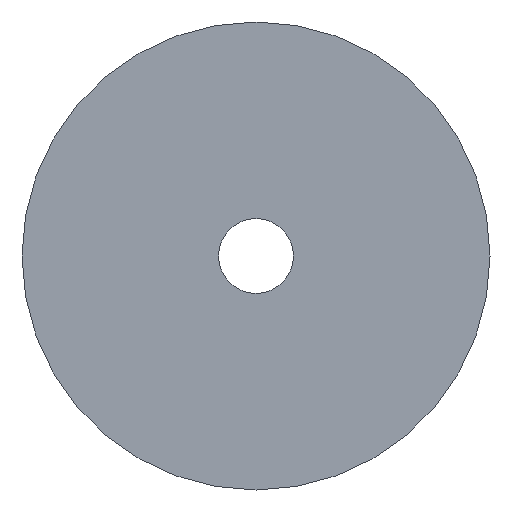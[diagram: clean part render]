
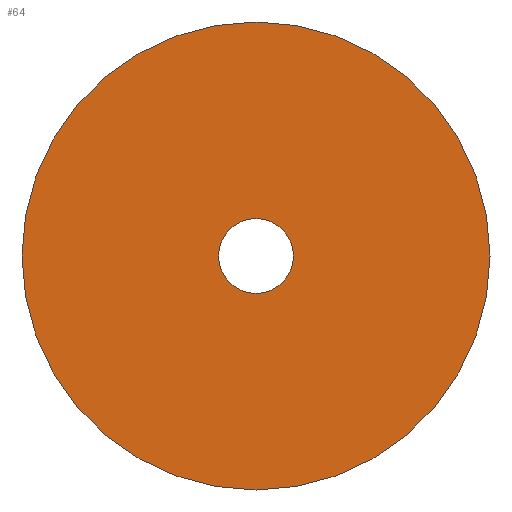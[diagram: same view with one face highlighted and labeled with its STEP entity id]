
A CAD part, front view. The second image highlights one B-rep face of the part: STEP entity #64.
In plain terms, the highlighted planar face has unit normal (0, -1, 0).
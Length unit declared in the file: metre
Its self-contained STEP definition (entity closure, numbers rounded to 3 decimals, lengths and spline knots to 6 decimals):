
#14=PLANE('',#85);
#19=ORIENTED_EDGE('',*,*,#28,.F.);
#20=ORIENTED_EDGE('',*,*,#26,.F.);
#26=EDGE_CURVE('',#31,#31,#36,.T.);
#28=EDGE_CURVE('',#33,#33,#38,.F.);
#31=VERTEX_POINT('',#117);
#33=VERTEX_POINT('',#123);
#36=CIRCLE('',#82,0.01);
#38=CIRCLE('',#86,0.0016);
#44=EDGE_LOOP('',(#19));
#45=EDGE_LOOP('',(#20));
#54=FACE_BOUND('',#44,.T.);
#55=FACE_BOUND('',#45,.T.);
#64=ADVANCED_FACE('',(#54,#55),#14,.F.);
#82=AXIS2_PLACEMENT_3D('',#116,#96,#97);
#85=AXIS2_PLACEMENT_3D('',#121,#102,#103);
#86=AXIS2_PLACEMENT_3D('',#122,#104,#105);
#96=DIRECTION('',(0.,1.,0.));
#97=DIRECTION('',(1.,0.,0.));
#102=DIRECTION('',(0.,1.,0.));
#103=DIRECTION('',(1.,0.,0.));
#104=DIRECTION('',(0.,1.,0.));
#105=DIRECTION('',(1.,0.,0.));
#116=CARTESIAN_POINT('',(0.,0.,0.));
#117=CARTESIAN_POINT('',(0.01,0.,0.));
#121=CARTESIAN_POINT('',(0.,0.,0.));
#122=CARTESIAN_POINT('',(0.,0.,0.));
#123=CARTESIAN_POINT('',(0.0016,0.,0.));
